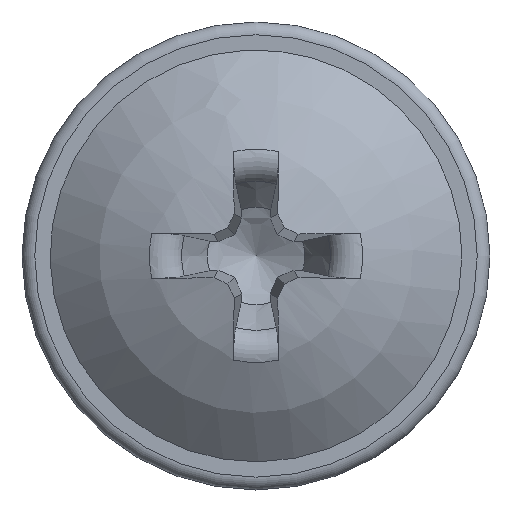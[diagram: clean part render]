
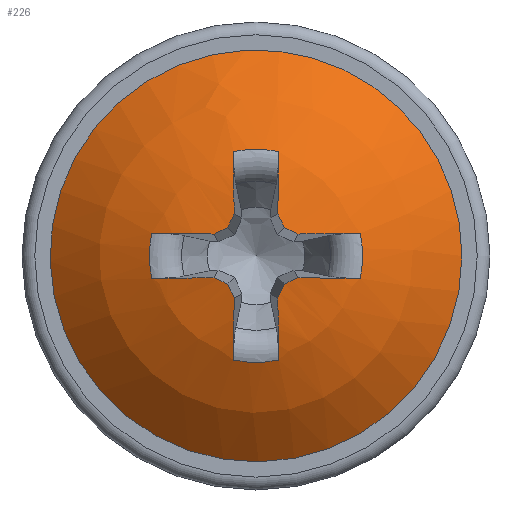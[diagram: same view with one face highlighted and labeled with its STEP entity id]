
A CAD part, top view. The second image highlights one B-rep face of the part: STEP entity #226.
In plain terms, the highlighted spherical face has radius 6.856 mm.
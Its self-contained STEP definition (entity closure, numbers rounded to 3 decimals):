
#187=SPHERICAL_SURFACE('',#1268,6.856);
#198=FACE_BOUND('',#374,.T.);
#199=FACE_BOUND('',#375,.T.);
#226=ADVANCED_FACE('',(#198,#199),#187,.T.);
#374=EDGE_LOOP('',(#524));
#375=EDGE_LOOP('',(#525,#526,#527,#528,#529,#530,#531,#532,#533,#534,#535,
#536,#537,#538,#539,#540,#541,#542,#543,#544));
#460=CIRCLE('',#1247,4.84);
#461=CIRCLE('',#1248,6.855);
#462=CIRCLE('',#1249,2.507);
#463=CIRCLE('',#1250,6.855);
#464=CIRCLE('',#1251,6.854);
#465=CIRCLE('',#1252,6.854);
#466=CIRCLE('',#1253,6.855);
#467=CIRCLE('',#1254,2.507);
#468=CIRCLE('',#1255,6.855);
#469=CIRCLE('',#1256,6.854);
#470=CIRCLE('',#1257,6.854);
#471=CIRCLE('',#1258,6.855);
#472=CIRCLE('',#1259,2.507);
#473=CIRCLE('',#1260,6.855);
#474=CIRCLE('',#1261,6.854);
#475=CIRCLE('',#1262,6.854);
#476=CIRCLE('',#1263,6.855);
#477=CIRCLE('',#1264,2.507);
#478=CIRCLE('',#1265,6.855);
#479=CIRCLE('',#1266,6.854);
#480=CIRCLE('',#1267,6.854);
#524=ORIENTED_EDGE('',*,*,#994,.T.);
#525=ORIENTED_EDGE('',*,*,#995,.F.);
#526=ORIENTED_EDGE('',*,*,#996,.T.);
#527=ORIENTED_EDGE('',*,*,#997,.F.);
#528=ORIENTED_EDGE('',*,*,#998,.F.);
#529=ORIENTED_EDGE('',*,*,#999,.F.);
#530=ORIENTED_EDGE('',*,*,#1000,.F.);
#531=ORIENTED_EDGE('',*,*,#1001,.T.);
#532=ORIENTED_EDGE('',*,*,#1002,.F.);
#533=ORIENTED_EDGE('',*,*,#1003,.F.);
#534=ORIENTED_EDGE('',*,*,#1004,.F.);
#535=ORIENTED_EDGE('',*,*,#1005,.F.);
#536=ORIENTED_EDGE('',*,*,#1006,.T.);
#537=ORIENTED_EDGE('',*,*,#1007,.F.);
#538=ORIENTED_EDGE('',*,*,#1008,.F.);
#539=ORIENTED_EDGE('',*,*,#1009,.F.);
#540=ORIENTED_EDGE('',*,*,#1010,.F.);
#541=ORIENTED_EDGE('',*,*,#1011,.T.);
#542=ORIENTED_EDGE('',*,*,#1012,.F.);
#543=ORIENTED_EDGE('',*,*,#1013,.F.);
#544=ORIENTED_EDGE('',*,*,#1014,.F.);
#878=VERTEX_POINT('',#2319);
#879=VERTEX_POINT('',#2321);
#880=VERTEX_POINT('',#2322);
#881=VERTEX_POINT('',#2324);
#882=VERTEX_POINT('',#2326);
#883=VERTEX_POINT('',#2328);
#884=VERTEX_POINT('',#2330);
#885=VERTEX_POINT('',#2332);
#886=VERTEX_POINT('',#2334);
#887=VERTEX_POINT('',#2336);
#888=VERTEX_POINT('',#2338);
#889=VERTEX_POINT('',#2340);
#890=VERTEX_POINT('',#2342);
#891=VERTEX_POINT('',#2344);
#892=VERTEX_POINT('',#2346);
#893=VERTEX_POINT('',#2348);
#894=VERTEX_POINT('',#2350);
#895=VERTEX_POINT('',#2352);
#896=VERTEX_POINT('',#2354);
#897=VERTEX_POINT('',#2356);
#898=VERTEX_POINT('',#2358);
#994=EDGE_CURVE('',#878,#878,#460,.T.);
#995=EDGE_CURVE('',#879,#880,#461,.T.);
#996=EDGE_CURVE('',#879,#881,#462,.T.);
#997=EDGE_CURVE('',#882,#881,#463,.T.);
#998=EDGE_CURVE('',#883,#882,#464,.T.);
#999=EDGE_CURVE('',#884,#883,#465,.T.);
#1000=EDGE_CURVE('',#885,#884,#466,.T.);
#1001=EDGE_CURVE('',#885,#886,#467,.T.);
#1002=EDGE_CURVE('',#887,#886,#468,.T.);
#1003=EDGE_CURVE('',#888,#887,#469,.T.);
#1004=EDGE_CURVE('',#889,#888,#470,.T.);
#1005=EDGE_CURVE('',#890,#889,#471,.T.);
#1006=EDGE_CURVE('',#890,#891,#472,.T.);
#1007=EDGE_CURVE('',#892,#891,#473,.T.);
#1008=EDGE_CURVE('',#893,#892,#474,.T.);
#1009=EDGE_CURVE('',#894,#893,#475,.T.);
#1010=EDGE_CURVE('',#895,#894,#476,.T.);
#1011=EDGE_CURVE('',#895,#896,#477,.T.);
#1012=EDGE_CURVE('',#897,#896,#478,.T.);
#1013=EDGE_CURVE('',#898,#897,#479,.T.);
#1014=EDGE_CURVE('',#880,#898,#480,.T.);
#1247=AXIS2_PLACEMENT_3D('',#2318,#1334,#1335);
#1248=AXIS2_PLACEMENT_3D('',#2320,#1336,#1337);
#1249=AXIS2_PLACEMENT_3D('',#2323,#1338,#1339);
#1250=AXIS2_PLACEMENT_3D('',#2325,#1340,#1341);
#1251=AXIS2_PLACEMENT_3D('',#2327,#1342,#1343);
#1252=AXIS2_PLACEMENT_3D('',#2329,#1344,#1345);
#1253=AXIS2_PLACEMENT_3D('',#2331,#1346,#1347);
#1254=AXIS2_PLACEMENT_3D('',#2333,#1348,#1349);
#1255=AXIS2_PLACEMENT_3D('',#2335,#1350,#1351);
#1256=AXIS2_PLACEMENT_3D('',#2337,#1352,#1353);
#1257=AXIS2_PLACEMENT_3D('',#2339,#1354,#1355);
#1258=AXIS2_PLACEMENT_3D('',#2341,#1356,#1357);
#1259=AXIS2_PLACEMENT_3D('',#2343,#1358,#1359);
#1260=AXIS2_PLACEMENT_3D('',#2345,#1360,#1361);
#1261=AXIS2_PLACEMENT_3D('',#2347,#1362,#1363);
#1262=AXIS2_PLACEMENT_3D('',#2349,#1364,#1365);
#1263=AXIS2_PLACEMENT_3D('',#2351,#1366,#1367);
#1264=AXIS2_PLACEMENT_3D('',#2353,#1368,#1369);
#1265=AXIS2_PLACEMENT_3D('',#2355,#1370,#1371);
#1266=AXIS2_PLACEMENT_3D('',#2357,#1372,#1373);
#1267=AXIS2_PLACEMENT_3D('',#2359,#1374,#1375);
#1268=AXIS2_PLACEMENT_3D('',#2360,#1376,#1377);
#1334=DIRECTION('',(0.,0.,1.));
#1335=DIRECTION('',(1.,0.,0.));
#1336=DIRECTION('',(-0.996,-0.035,0.087));
#1337=DIRECTION('',(0.087,0.,0.996));
#1338=DIRECTION('',(0.,0.,-1.));
#1339=DIRECTION('',(-1.,0.,0.));
#1340=DIRECTION('',(0.996,-0.035,0.087));
#1341=DIRECTION('',(0.087,0.,-0.996));
#1342=DIRECTION('',(0.902,0.42,0.1));
#1343=DIRECTION('',(-0.423,0.906,0.));
#1344=DIRECTION('',(0.42,0.902,0.1));
#1345=DIRECTION('',(-0.906,0.423,0.));
#1346=DIRECTION('',(-0.035,0.996,0.087));
#1347=DIRECTION('',(0.,-0.087,0.996));
#1348=DIRECTION('',(0.,0.,-1.));
#1349=DIRECTION('',(-1.,0.,0.));
#1350=DIRECTION('',(-0.035,-0.996,0.087));
#1351=DIRECTION('',(0.,-0.087,-0.996));
#1352=DIRECTION('',(0.42,-0.902,0.1));
#1353=DIRECTION('',(0.906,0.423,0.));
#1354=DIRECTION('',(0.902,-0.42,0.1));
#1355=DIRECTION('',(0.423,0.906,0.));
#1356=DIRECTION('',(0.996,0.035,0.087));
#1357=DIRECTION('',(0.087,0.,-0.996));
#1358=DIRECTION('',(0.,0.,-1.));
#1359=DIRECTION('',(-1.,0.,0.));
#1360=DIRECTION('',(-0.996,0.035,0.087));
#1361=DIRECTION('',(0.087,0.,0.996));
#1362=DIRECTION('',(-0.902,-0.42,0.1));
#1363=DIRECTION('',(0.423,-0.906,0.));
#1364=DIRECTION('',(-0.42,-0.902,0.1));
#1365=DIRECTION('',(0.906,-0.423,0.));
#1366=DIRECTION('',(0.035,-0.996,0.087));
#1367=DIRECTION('',(0.,-0.087,-0.996));
#1368=DIRECTION('',(0.,0.,-1.));
#1369=DIRECTION('',(-1.,0.,0.));
#1370=DIRECTION('',(0.035,0.996,0.087));
#1371=DIRECTION('',(0.,-0.087,0.996));
#1372=DIRECTION('',(-0.42,0.902,0.1));
#1373=DIRECTION('',(-0.906,-0.423,0.));
#1374=DIRECTION('',(-0.902,0.42,0.1));
#1375=DIRECTION('',(-0.423,-0.906,0.));
#1376=DIRECTION('',(0.,0.,1.));
#1377=DIRECTION('',(0.,1.,0.));
#2318=CARTESIAN_POINT('',(0.,0.,1.2));
#2319=CARTESIAN_POINT('',(4.84,0.,1.2));
#2320=CARTESIAN_POINT('',(-0.114,-0.004,-3.646));
#2321=CARTESIAN_POINT('',(0.529,-2.45,2.725));
#2322=CARTESIAN_POINT('',(0.512,-0.987,3.109));
#2323=CARTESIAN_POINT('',(0.,0.,2.725));
#2324=CARTESIAN_POINT('',(-0.529,-2.45,2.725));
#2325=CARTESIAN_POINT('',(0.114,-0.004,-3.646));
#2326=CARTESIAN_POINT('',(-0.512,-0.987,3.109));
#2327=CARTESIAN_POINT('',(-0.179,-0.084,-3.676));
#2328=CARTESIAN_POINT('',(-0.665,-0.665,3.135));
#2329=CARTESIAN_POINT('',(-0.084,-0.179,-3.676));
#2330=CARTESIAN_POINT('',(-0.987,-0.512,3.109));
#2331=CARTESIAN_POINT('',(-0.004,0.114,-3.646));
#2332=CARTESIAN_POINT('',(-2.45,-0.529,2.725));
#2333=CARTESIAN_POINT('',(0.,0.,2.725));
#2334=CARTESIAN_POINT('',(-2.45,0.529,2.725));
#2335=CARTESIAN_POINT('',(-0.004,-0.114,-3.646));
#2336=CARTESIAN_POINT('',(-0.987,0.512,3.109));
#2337=CARTESIAN_POINT('',(-0.084,0.179,-3.676));
#2338=CARTESIAN_POINT('',(-0.665,0.665,3.135));
#2339=CARTESIAN_POINT('',(-0.179,0.084,-3.676));
#2340=CARTESIAN_POINT('',(-0.512,0.987,3.109));
#2341=CARTESIAN_POINT('',(0.114,0.004,-3.646));
#2342=CARTESIAN_POINT('',(-0.529,2.45,2.725));
#2343=CARTESIAN_POINT('',(0.,0.,2.725));
#2344=CARTESIAN_POINT('',(0.529,2.45,2.725));
#2345=CARTESIAN_POINT('',(-0.114,0.004,-3.646));
#2346=CARTESIAN_POINT('',(0.512,0.987,3.109));
#2347=CARTESIAN_POINT('',(0.179,0.084,-3.676));
#2348=CARTESIAN_POINT('',(0.665,0.665,3.135));
#2349=CARTESIAN_POINT('',(0.084,0.179,-3.676));
#2350=CARTESIAN_POINT('',(0.987,0.512,3.109));
#2351=CARTESIAN_POINT('',(0.004,-0.114,-3.646));
#2352=CARTESIAN_POINT('',(2.45,0.529,2.725));
#2353=CARTESIAN_POINT('',(0.,0.,2.725));
#2354=CARTESIAN_POINT('',(2.45,-0.529,2.725));
#2355=CARTESIAN_POINT('',(0.004,0.114,-3.646));
#2356=CARTESIAN_POINT('',(0.987,-0.512,3.109));
#2357=CARTESIAN_POINT('',(0.084,-0.179,-3.676));
#2358=CARTESIAN_POINT('',(0.665,-0.665,3.135));
#2359=CARTESIAN_POINT('',(0.179,-0.084,-3.676));
#2360=CARTESIAN_POINT('',(0.,0.,-3.656));
